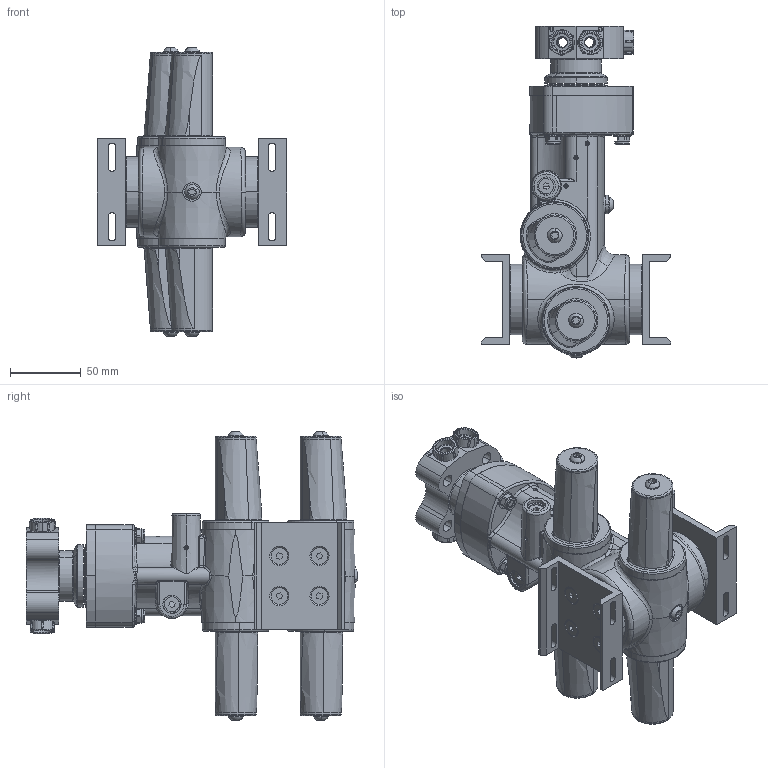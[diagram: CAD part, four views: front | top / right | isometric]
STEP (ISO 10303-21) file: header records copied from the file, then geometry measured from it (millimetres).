
FILE_DESCRIPTION (( 'STEP AP214' ), '1' );
FILE_NAME ('5735-MAS Rev 1 (Hydraulic Pan & Tilt Assembly - MK3).STEP', '2011-04-01T12:17:25', ( '' ), ( '' ), 'SwSTEP 2.0', 'SolidWorks 2010', '' );
FILE_SCHEMA (( 'AUTOMOTIVE_DESIGN' ));
Length unit declared in the file: millimetre
Products named in the file (1): 5735-MAS Rev 1 (Hydraulic Pan & Tilt Assembly - MK3)
Bounding box: 134 x 234.3 x 203.6 mm (x, y, z)
Surface area: 146229.9 mm2 (no closed solid volume)
Topology: 0 solids, 84 shells, 1067 faces, 3267 edges, 2198 vertices
Faces by surface type: cylinder 347, plane 337, sphere 123, torus 103, bspline 82, cone 75
Entity records: 74182 total; most frequent: CARTESIAN_POINT 34307, DIRECTION 5905, ORIENTED_EDGE 5492, EDGE_CURVE 3154, AXIS2_PLACEMENT_3D 2328, VERTEX_POINT 2198, CIRCLE 1342, EDGE_LOOP 1252
